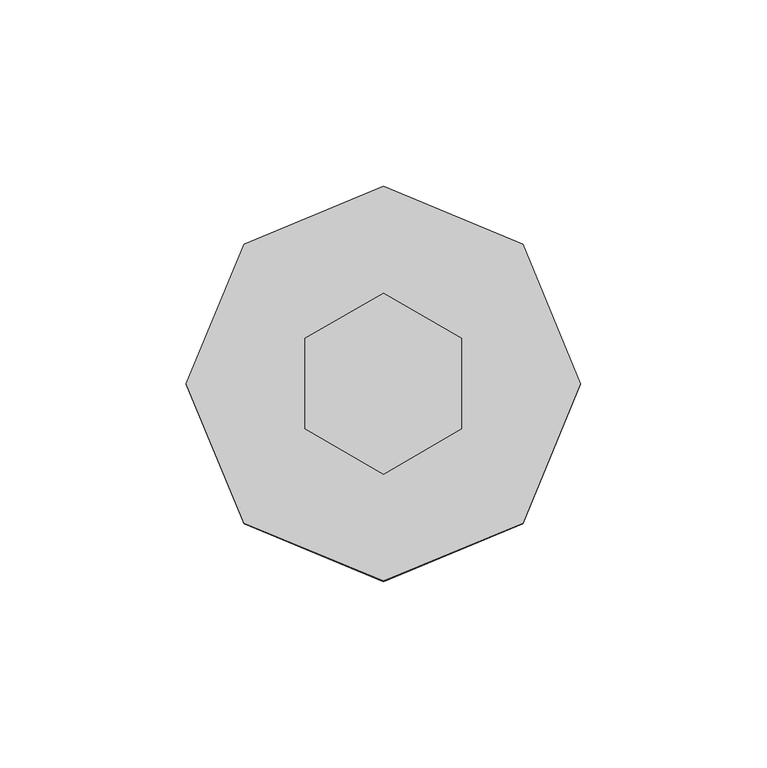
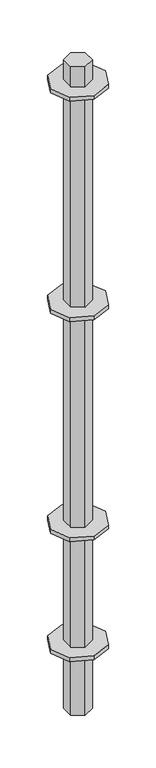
"""IFC4 building model written with IfcOpenShell, lengths in millimetres: proxy geometry, AK_アルバトロスＡＫ支柱L=1350_軽 : AK_アルバトロスＡＫ支柱L=1350."""

from ifc_helpers import new_model, si_unit, frame, origin, origin_with_axes, place, context, project, spatial, polyline, outline, extrude, source, transform, mapped, element, save


def generic_models_86f9ce57(model_context):
    return source(origin(), model_context, "Body", "SweptSolid", [
        extrude(outline(polyline([(-37.4766594, -37.4766594), (-53.0, 0.0), (-37.4766594, 37.4766594), (0.0, 53.0), (37.4766594, 37.4766594), (53.0, 0.0), (37.4766594, -37.4766594), (0.0, -53.0), (-37.4766594, -37.4766594)])), frame((0.0, 0.0, 131.0), z_axis=(0.0, 0.0, 1.0), x_axis=(1.0, 0.0, 0.0)), (0.0, 0.0, 1.0), 8.0),
        extrude(outline(polyline([(-37.4766594, -37.4766594), (-53.0, 0.0), (-37.4766594, 37.4766594), (0.0, 53.0), (37.4766594, 37.4766594), (53.0, 0.0), (37.4766594, -37.4766594), (0.0, -53.0), (-37.4766594, -37.4766594)])), frame((0.0, 0.0, 1276.0), z_axis=(0.0, 0.0, 1.0), x_axis=(1.0, 0.0, 0.0)), (0.0, 0.0, 1.0), 8.0),
        extrude(outline(polyline([(-37.4766594, -37.4766594), (-53.0, 0.0), (-37.4766594, 37.4766594), (0.0, 53.0), (37.4766594, 37.4766594), (53.0, 0.0), (37.4766594, -37.4766594), (0.0, -53.0), (-37.4766594, -37.4766594)])), frame((0.0, 0.0, 826.0), z_axis=(0.0, 0.0, 1.0), x_axis=(1.0, 0.0, 0.0)), (0.0, 0.0, 1.0), 8.0),
        extrude(outline(polyline([(-37.4766594, -37.4766594), (-53.0, 0.0), (-37.4766594, 37.4766594), (0.0, 53.0), (37.4766594, 37.4766594), (53.0, 0.0), (37.4766594, -37.4766594), (0.0, -53.0), (-37.4766594, -37.4766594)])), frame((0.0, 0.0, 376.0), z_axis=(0.0, 0.0, 1.0), x_axis=(1.0, 0.0, 0.0)), (0.0, 0.0, 1.0), 8.0),
        extrude(outline(polyline([(-21.0444173, -12.15), (-21.0444173, 12.15), (0.0, 24.3), (21.0444173, 12.15), (21.0444173, -12.15), (0.0, -24.3), (-21.0444173, -12.15)])), origin_with_axes(), (0.0, 0.0, 1.0), 1325.0),
    ])


if __name__ == "__main__":
    model = new_model("IFC4")
    model_context = context("Model", 3, world=origin())
    ifc_project = project(units=[si_unit("LENGTHUNIT", "METRE", prefix="MILLI")], contexts=[model_context])
    site = spatial("IfcSite", under=ifc_project)
    building = spatial("IfcBuilding", under=site)
    placement = place(None, origin())
    generic_models_shape = generic_models_86f9ce57(model_context)
    element("IfcBuildingElementProxy", 1, Name="AK_アルバトロスＡＫ支柱L=1350_軽 : AK_アルバトロスＡＫ支柱L=1350", ObjectType="AK_アルバトロスＡＫ支柱L=1350_軽 : AK_アルバトロスＡＫ支柱L=1350", at=placement, inside=building, context=model_context, shape_type="MappedRepresentation", body=[
        mapped(generic_models_shape, transform((0.0, 0.0, 0.0), x_axis=(1.0, 0.0, 0.0), y_axis=(0.0, 1.0, 0.0), z_axis=(0.0, 0.0, 1.0))),
    ])
    save(model, "model.ifc")
